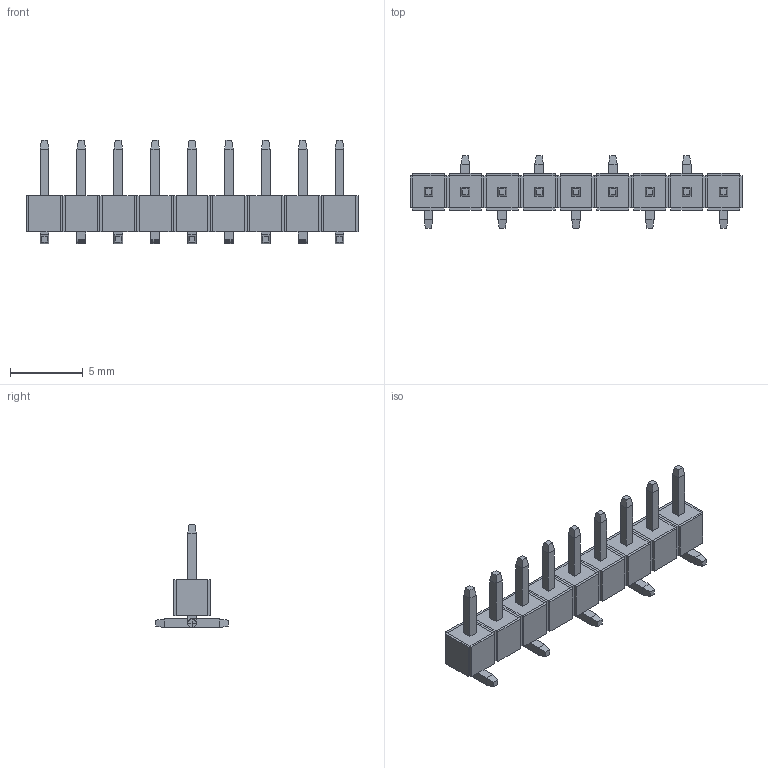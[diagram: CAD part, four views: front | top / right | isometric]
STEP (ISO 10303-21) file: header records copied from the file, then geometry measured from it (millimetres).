
FILE_DESCRIPTION(('FreeCAD Model'),'2;1');
FILE_NAME('Open CASCADE Shape Model','2021-08-03T16:09:23',('Author'),( ''),'Open CASCADE STEP processor 7.5','FreeCAD','Unknown');
FILE_SCHEMA(('AUTOMOTIVE_DESIGN { 1 0 10303 214 1 1 1 1 }'));
Length unit declared in the file: millimetre
Products named in the file (1): Group009
Bounding box: 22.86 x 5 x 7.1 mm (x, y, z)
Volume: 163.3 mm3; surface area: 392.9 mm2
Topology: 1 solids, 1 shells, 596 faces, 1984 edges, 1408 vertices
Faces by surface type: plane 596
Entity records: 50226 total; most frequent: CARTESIAN_POINT 8101, DIRECTION 7002, LINE 5808, VECTOR 5808, ORIENTED_EDGE 3968, PCURVE 3968, DEFINITIONAL_REPRESENTATION 3968, EDGE_CURVE 1984
